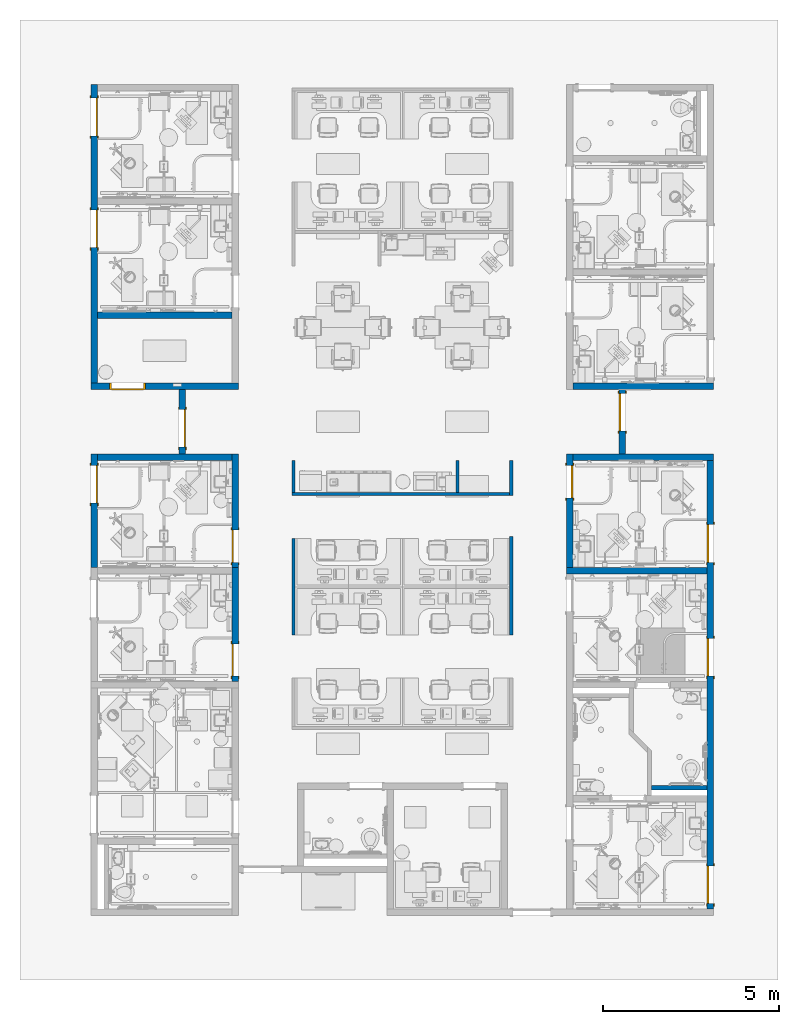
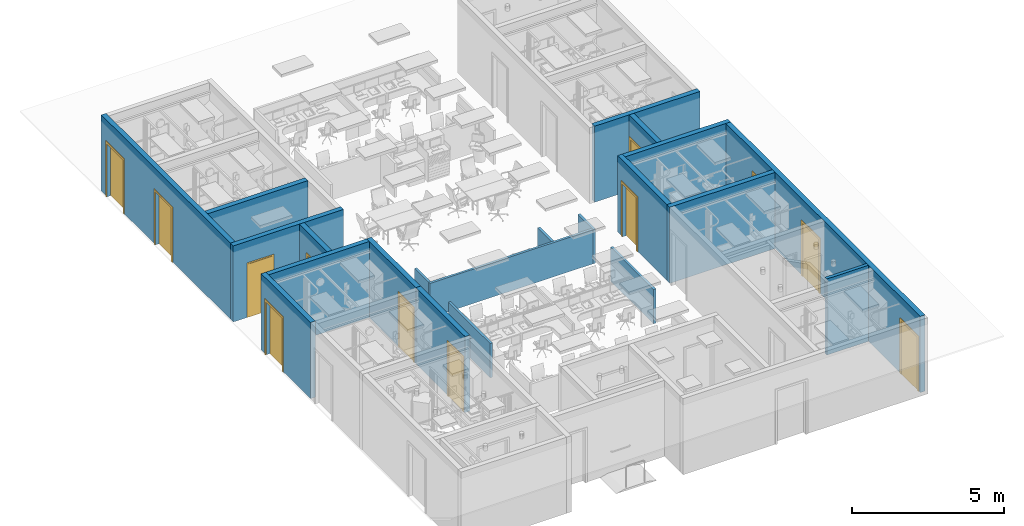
# One storey, part 2 of 142: 21 walls, 12 doors, 12 openings.
"""IFC2X3 building model written with IfcOpenShell, lengths in feet."""

import ifcopenshell
import ifcopenshell.guid

model = None  # the IFC model being written
_history = None  # IfcOwnerHistory: only IFC2X3 demands one
_inside = {}  # id of a spatial element -> (the spatial element, [elements in it])
_under = {}  # id of a project, library or spatial element -> (it, [spatial elements below it])
_declared = {}  # id of a project -> (the project, [libraries it declares])
_typed = {}  # id of a type object -> (the type object, [elements of that type])
_made_of = {}  # id of a material, layer set ... -> (it, [elements and type objects made of it])


def new_model(schema):
    """Start an empty IFC model of exactly this schema.

    Asked for "IFC4X3", IfcOpenShell would pick the latest addendum, in which some entities
    have other attributes; the version numbers below select the first issue.
    IFC2X3 requires an IfcOwnerHistory on every rooted entity: one is made here for all.
    """
    global model, _history
    if schema == "IFC4X3":
        model = ifcopenshell.file(schema_version=(4, 3, 0, 0))
    else:
        model = ifcopenshell.file(schema=schema)
    _inside.clear()
    _under.clear()
    _declared.clear()
    _typed.clear()
    _made_of.clear()
    _history = None
    if model.schema == "IFC2X3":
        org = make("IfcOrganization", Name="unknown")
        user = make(
            "IfcPersonAndOrganization",
            ThePerson=make("IfcPerson", FamilyName="unknown"),
            TheOrganization=org,
        )
        app = make(
            "IfcApplication",
            ApplicationDeveloper=org,
            Version="unknown",
            ApplicationFullName="unknown",
            ApplicationIdentifier="unknown",
        )
        _history = make(
            "IfcOwnerHistory",
            OwningUser=user,
            OwningApplication=app,
            ChangeAction="ADDED",
            CreationDate=0,
        )
    return model


def make(cls, **values):
    """One entity of the class cls with the attributes given. An attribute that is None is left unset."""
    return model.create_entity(
        cls, **{name: value for name, value in values.items() if value is not None}
    )


def entity(cls, *values):
    """Any entity or typed value of the class cls, its attributes in the order of the schema. None: left unset."""
    e = model.create_entity(cls)
    for i, value in enumerate(values):
        if value is not None:
            e[i] = value
    return e


def rooted(cls, **values):
    """An entity with a GlobalId (a new one), such as an element, a storey or a relation."""
    return make(cls, GlobalId=ifcopenshell.guid.new(), OwnerHistory=_history, **values)


def si_unit(unit_type, name, prefix=None):
    """IfcSIUnit, for example si_unit("LENGTHUNIT", "METRE", prefix="MILLI")."""
    return make("IfcSIUnit", UnitType=unit_type, Prefix=prefix, Name=name)


def converted_unit(unit_type, name, factor, base, dimensions=None, offset=None):
    """IfcConversionBasedUnit, such as the inch: factor (a typed value) times the base unit."""
    return make(
        "IfcConversionBasedUnit"
        if offset is None
        else "IfcConversionBasedUnitWithOffset",
        ConversionOffset=offset,
        Dimensions=None
        if dimensions is None
        else entity("IfcDimensionalExponents", *dimensions),
        UnitType=unit_type,
        Name=name,
        ConversionFactor=make(
            "IfcMeasureWithUnit", ValueComponent=factor, UnitComponent=base
        ),
    )


def derived_unit(unit_type, elements):
    """IfcDerivedUnit: a product of units, each with its exponent."""
    return make(
        "IfcDerivedUnit",
        Elements=[
            make("IfcDerivedUnitElement", Unit=unit, Exponent=power)
            for unit, power in elements
        ],
        UnitType=unit_type,
    )


def assignment(units):
    """IfcUnitAssignment: the units of a project."""
    return None if units is None else make("IfcUnitAssignment", Units=units)


def point(xyz):
    """IfcCartesianPoint."""
    return None if xyz is None else make("IfcCartesianPoint", Coordinates=xyz)


def direction(xyz):
    """IfcDirection."""
    return None if xyz is None else make("IfcDirection", DirectionRatios=xyz)


def frame(location, z_axis=None, x_axis=None):
    """IfcAxis2Placement3D, a coordinate frame: its origin and axes. An axis left out is left unset."""
    return make(
        "IfcAxis2Placement3D",
        Location=point(location),
        Axis=direction(z_axis),
        RefDirection=direction(x_axis),
    )


def frame_2d(location, x_axis=None):
    """IfcAxis2Placement2D, a coordinate frame in the plane: its origin and x axis."""
    return make(
        "IfcAxis2Placement2D", Location=point(location), RefDirection=direction(x_axis)
    )


def origin():
    """The frame at (0, 0, 0) with its axes left unset."""
    return frame((0.0, 0.0, 0.0))


def origin_2d_with_axis():
    """The frame at (0, 0) in the plane with the x axis (1, 0) written out."""
    return frame_2d((0.0, 0.0), x_axis=(1.0, 0.0))


def place(relative_to, where):
    """IfcLocalPlacement: puts the frame where relative to a parent placement (None: the world)."""
    return make(
        "IfcLocalPlacement", PlacementRelTo=relative_to, RelativePlacement=where
    )


def context(
    kind, dimensions, precision=None, world=None, true_north=None, identifier=None
):
    """IfcGeometricRepresentationContext, for example the 3D "Model" context."""
    return make(
        "IfcGeometricRepresentationContext",
        ContextIdentifier=identifier,
        ContextType=kind,
        CoordinateSpaceDimension=dimensions,
        Precision=precision,
        WorldCoordinateSystem=world,
        TrueNorth=true_north,
    )


def subcontext(parent, identifier, kind, view, scale=None):
    """IfcGeometricRepresentationSubContext, for example "Body" below "Model"."""
    return make(
        "IfcGeometricRepresentationSubContext",
        ContextIdentifier=identifier,
        ContextType=kind,
        ParentContext=parent,
        TargetScale=scale,
        TargetView=view,
    )


def project(units=None, contexts=None):
    """IfcProject with its units and contexts."""
    return rooted(
        "IfcProject",
        Name="project",
        RepresentationContexts=contexts,
        UnitsInContext=assignment(units),
    )


def spatial(cls, under=None, at=None, **own):
    """A site, building, storey or space (cls), placed at a placement, below another one or the project."""
    s = rooted(cls, ObjectPlacement=at, **own)
    if under is not None:
        _under.setdefault(under.id(), (under, []))[1].append(s)
    return s


def polyline(points):
    """IfcPolyline through the points."""
    return make("IfcPolyline", Points=[point(p) for p in points])


def profile(cls, at=None, kind="AREA", **sizes):
    """A parametric profile (cls). Its sizes go by their IFC names, for example OverallWidth=200.0."""
    return make(cls, ProfileType=kind, Position=at, **sizes)


def rectangle(**sizes):
    """IfcRectangleProfileDef."""
    return profile("IfcRectangleProfileDef", **sizes)


def outline(outer, holes=None, kind="AREA"):
    """IfcArbitraryClosedProfileDef: a profile drawn as a closed curve; with holes, ...WithVoids."""
    if holes is None:
        return make("IfcArbitraryClosedProfileDef", ProfileType=kind, OuterCurve=outer)
    return make(
        "IfcArbitraryProfileDefWithVoids",
        ProfileType=kind,
        OuterCurve=outer,
        InnerCurves=holes,
    )


def extrude(swept, where, along, depth):
    """IfcExtrudedAreaSolid: the profile swept, set in the frame where, extruded along a direction by depth."""
    return make(
        "IfcExtrudedAreaSolid",
        SweptArea=swept,
        Position=where,
        ExtrudedDirection=direction(along),
        Depth=depth,
    )


def shape(context_of_items, identifier, shape_type, items):
    """IfcShapeRepresentation: the items that make up one representation, for example the "Body"."""
    return make(
        "IfcShapeRepresentation",
        ContextOfItems=context_of_items,
        RepresentationIdentifier=identifier,
        RepresentationType=shape_type,
        Items=items,
    )


def source(mapping_origin, context_of_items, identifier, shape_type, items):
    """IfcRepresentationMap: a shape defined once, which mapped items show again and again."""
    return make(
        "IfcRepresentationMap",
        MappingOrigin=mapping_origin,
        MappedRepresentation=shape(context_of_items, identifier, shape_type, items),
    )


def transform(
    local_origin,
    x_axis=None,
    y_axis=None,
    z_axis=None,
    scale=None,
    scale2=None,
    scale3=None,
    uniform=True,
):
    """IfcCartesianTransformationOperator3D, or its non-uniform kind. x_axis, y_axis, z_axis: its Axis1, 2, 3."""
    if uniform:
        return make(
            "IfcCartesianTransformationOperator3D",
            Axis1=direction(x_axis),
            Axis2=direction(y_axis),
            LocalOrigin=point(local_origin),
            Scale=scale,
            Axis3=direction(z_axis),
        )
    return make(
        "IfcCartesianTransformationOperator3DnonUniform",
        Axis1=direction(x_axis),
        Axis2=direction(y_axis),
        LocalOrigin=point(local_origin),
        Scale=scale,
        Axis3=direction(z_axis),
        Scale2=scale2,
        Scale3=scale3,
    )


def mapped(mapping_source, mapping_target):
    """IfcMappedItem: shows the shape of a source again, moved by a transform."""
    return make(
        "IfcMappedItem", MappingSource=mapping_source, MappingTarget=mapping_target
    )


def material(Name=None, Category=None):
    """IfcMaterial."""
    return make("IfcMaterial", Name=Name, Category=Category)


def layer(
    of_material, thickness, ventilated=None, Name=None, Category=None, Priority=None
):
    """IfcMaterialLayer: one layer of a wall or slab, of a material (None: an air gap)."""
    return make(
        "IfcMaterialLayer",
        Material=of_material,
        LayerThickness=thickness,
        IsVentilated=ventilated,
        Name=Name,
        Category=Category,
        Priority=Priority,
    )


def layer_set(layers, Name=None):
    """IfcMaterialLayerSet."""
    return make("IfcMaterialLayerSet", MaterialLayers=layers, LayerSetName=Name)


def layer_usage(for_layer_set, set_direction, sense, offset, extent=None):
    """IfcMaterialLayerSetUsage: how a layer set lies in its element."""
    return make(
        "IfcMaterialLayerSetUsage",
        ForLayerSet=for_layer_set,
        LayerSetDirection=set_direction,
        DirectionSense=sense,
        OffsetFromReferenceLine=offset,
        ReferenceExtent=extent,
    )


def made_of(thing, what):
    """Note that an element or type object is made of a material, layer set ...; save() writes the relation."""
    if what is not None:
        _made_of.setdefault(what.id(), (what, []))[1].append(thing)
    return thing


def type_object(cls, material=None, **own):
    """A type object (cls), such as IfcWallType, which elements share."""
    return made_of(rooted(cls, **own), material)


def type_shapes(of_type, sources):
    """Give a type object the sources (RepresentationMaps) that its elements show as mapped items."""
    of_type.RepresentationMaps = sources


def element(
    cls,
    number,
    at=None,
    inside=None,
    cuts=None,
    type_object=None,
    material=None,
    context=None,
    identifier="Body",
    shape_type=None,
    held_by="IfcProductDefinitionShape",
    body=None,
    shapes=None,
    **own,
):
    """One element of the class cls, such as IfcWall. Its Tag is "e" and its number.

    at: its placement. inside: the storey or other place that contains it. cuts: it is an
    opening in that element (IfcRelVoidsElement). A single representation is given by context,
    identifier, shape_type and body (its items); several are given by shapes. held_by: the class
    of the entity that holds the representations. save() writes the other relations.
    """
    e = rooted(cls, Tag="e%d" % number, ObjectPlacement=at, **own)
    if body is not None:
        shapes = [shape(context, identifier, shape_type, body)]
    if shapes is not None:
        e.Representation = make(held_by, Representations=shapes)
    if inside is not None:
        _inside.setdefault(inside.id(), (inside, []))[1].append(e)
    if cuts is not None:
        rooted(
            "IfcRelVoidsElement", RelatingBuildingElement=cuts, RelatedOpeningElement=e
        )
    if type_object is not None:
        _typed.setdefault(type_object.id(), (type_object, []))[1].append(e)
    return made_of(e, material)


def fill(opening, filler):
    """IfcRelFillsElement: the door or window that sits in an opening."""
    return rooted(
        "IfcRelFillsElement",
        RelatingOpeningElement=opening,
        RelatedBuildingElement=filler,
    )


def aggregate(whole, parts):
    """IfcRelAggregates: a whole, such as a stair, and the parts it consists of."""
    return rooted("IfcRelAggregates", RelatingObject=whole, RelatedObjects=parts)


def save(model, path):
    """Write the relations noted so far, then the file.

    IfcRelAggregates (storeys below a building ...), IfcRelContainedInSpatialStructure (elements
    in a storey), IfcRelDefinesByType, IfcRelAssociatesMaterial and IfcRelDeclares: one each for
    every whole, place, type object, material and project.
    """
    for whole, parts in _under.values():
        aggregate(whole, parts)
    for where, things in _inside.values():
        rooted(
            "IfcRelContainedInSpatialStructure",
            RelatedElements=things,
            RelatingStructure=where,
        )
    for kind, things in _typed.values():
        rooted("IfcRelDefinesByType", RelatedObjects=things, RelatingType=kind)
    for what, things in _made_of.values():
        rooted("IfcRelAssociatesMaterial", RelatedObjects=things, RelatingMaterial=what)
    for by, libraries in _declared.values():
        rooted("IfcRelDeclares", RelatingContext=by, RelatedDefinitions=libraries)
    model.write(path)


model = new_model("IFC2X3")

# Units and contexts
model_context = context("Model", 3, precision=0.0001, world=origin(), true_north=direction((6.12303176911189e-17, 1.0)))
body_context = subcontext(model_context, "Body", "Model", "MODEL_VIEW")
ifc_project = project(units=[converted_unit("LENGTHUNIT", "FOOT", entity("IfcRatioMeasure", 0.3048), si_unit("LENGTHUNIT", "METRE"), dimensions=[1, 0, 0, 0, 0, 0, 0]), converted_unit("AREAUNIT", "SQUARE FOOT", entity("IfcRatioMeasure", 0.09290304), si_unit("AREAUNIT", "SQUARE_METRE"), dimensions=[2, 0, 0, 0, 0, 0, 0]), converted_unit("VOLUMEUNIT", "CUBIC FOOT", entity("IfcRatioMeasure", 0.028316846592), si_unit("VOLUMEUNIT", "CUBIC_METRE"), dimensions=[3, 0, 0, 0, 0, 0, 0]), converted_unit("PLANEANGLEUNIT", "DEGREE", entity("IfcRatioMeasure", 0.0174532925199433), si_unit("PLANEANGLEUNIT", "RADIAN"), dimensions=[0, 0, 0, 0, 0, 0, 0]), si_unit("MASSUNIT", "GRAM", prefix="KILO"), derived_unit("MASSDENSITYUNIT", [(si_unit("MASSUNIT", "GRAM", prefix="KILO"), 1), (si_unit("LENGTHUNIT", "METRE"), -3)]), si_unit("TIMEUNIT", "SECOND"), si_unit("FREQUENCYUNIT", "HERTZ"), si_unit("THERMODYNAMICTEMPERATUREUNIT", "DEGREE_CELSIUS"), derived_unit("THERMALTRANSMITTANCEUNIT", [(si_unit("MASSUNIT", "GRAM", prefix="KILO"), 1), (si_unit("THERMODYNAMICTEMPERATUREUNIT", "KELVIN"), -1), (si_unit("TIMEUNIT", "SECOND"), -3)]), derived_unit("VOLUMETRICFLOWRATEUNIT", [(si_unit("LENGTHUNIT", "METRE"), 3), (si_unit("TIMEUNIT", "SECOND"), -1)]), si_unit("ELECTRICCURRENTUNIT", "AMPERE"), si_unit("ELECTRICVOLTAGEUNIT", "VOLT"), si_unit("POWERUNIT", "WATT"), si_unit("FORCEUNIT", "NEWTON"), si_unit("ILLUMINANCEUNIT", "LUX"), si_unit("LUMINOUSFLUXUNIT", "LUMEN"), si_unit("LUMINOUSINTENSITYUNIT", "CANDELA"), derived_unit("USERDEFINED", [(si_unit("MASSUNIT", "GRAM", prefix="KILO"), -1), (si_unit("LENGTHUNIT", "METRE"), -2), (si_unit("TIMEUNIT", "SECOND"), 3), (si_unit("LUMINOUSFLUXUNIT", "LUMEN"), 1)]), derived_unit("LINEARVELOCITYUNIT", [(si_unit("LENGTHUNIT", "METRE"), 1), (si_unit("TIMEUNIT", "SECOND"), -1)]), si_unit("PRESSUREUNIT", "PASCAL"), derived_unit("USERDEFINED", [(si_unit("LENGTHUNIT", "METRE"), -2), (si_unit("MASSUNIT", "GRAM", prefix="KILO"), 1), (si_unit("TIMEUNIT", "SECOND"), -2)])], contexts=[model_context])

# Site, building, storey
site_placement = place(None, origin())
site = spatial("IfcSite", under=ifc_project, at=site_placement, Name="Default", CompositionType="ELEMENT")
building_placement = place(site_placement, origin())
building = spatial("IfcBuilding", under=site, at=building_placement, Name="OUTPATIENT / PACT CLINIC (Ch. 265)", CompositionType="ELEMENT")
storey_placement = place(building_placement, origin())
storey = spatial("IfcBuildingStorey", under=building, at=storey_placement, Name="LEVEL 1", CompositionType="ELEMENT", Elevation=0.0)

# Wall, opening, door
ifc_material = material(Name="<Unnamed>")
ifc_layer_1 = layer(ifc_material, 0.604166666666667)
ifc_layer_set_1 = layer_set([ifc_layer_1], Name="Basic Wall:Interior - 7 1/4\"")
ifc_layer_usage_1 = layer_usage(ifc_layer_set_1, "AXIS2", "NEGATIVE", 0.302083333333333)
wall_type_1 = type_object("IfcWallType", Name="Basic Wall:Interior - 7 1/4\"", PredefinedType="STANDARD", material=ifc_layer_set_1)
wall_1_placement = place(storey_placement, frame((398.864351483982, -904.233018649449, 0.0), z_axis=(0.0, 0.0, 1.0), x_axis=(0.0, -1.0, 0.0)))
wall_1 = element("IfcWallStandardCase", 1, at=wall_1_placement, inside=storey, type_object=wall_type_1, material=ifc_layer_usage_1, Name="Basic Wall:Interior - 7 1/4\"", ObjectType="Basic Wall:Interior - 7 1/4\"", context=body_context, shape_type="SweptSolid", body=[
    extrude(rectangle(XDim=5.99999999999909, YDim=0.604166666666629, at=frame_2d((2.99999999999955, 0.0), x_axis=(-1.0, 0.0))), origin(), (0.0, 0.0, 1.0), 9.99999999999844),
])
opening_1_placement = place(wall_1_placement, frame((1.88541666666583, -0.302083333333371, 0.0)))
opening_1 = element("IfcOpeningElement", 2, at=opening_1_placement, cuts=wall_1, Name="DOOR-Design-SGL:42\" x 84\":1", ObjectType="Opening", context=body_context, shape_type="SweptSolid", body=[
    extrude(rectangle(XDim=3.5, YDim=7.0, at=frame_2d((3.5, 1.75), x_axis=(0.0, 1.0))), frame((0.0, 0.0, 0.0), z_axis=(0.0, 1.0, 0.0), x_axis=(0.0, 0.0, 1.0)), (0.0, 0.0, 1.0), 0.604166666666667),
])
door_style_1 = type_object("IfcDoorStyle", Name="42\" x 84\"", ConstructionType="NOTDEFINED", OperationType="SINGLE_SWING_RIGHT", ParameterTakesPrecedence=False, Sizeable=False)
shared_shape_1 = source(origin(), body_context, "Body", "SweptSolid", [
    extrude(outline(polyline([(-2.0, -3.6875), (2.0, -3.6875), (2.0, 3.5625), (1.75, 3.5625), (1.75, -3.43750000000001), (-1.75, -3.43750000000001), (-1.75, 3.5625), (-2.0, 3.5625), (-2.0, -3.6875)])), frame((1.75, 0.604166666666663, 3.5625), z_axis=(0.0, 1.0, 0.0), x_axis=(1.0, 0.0, 0.0)), (0.0, 0.0, 1.0), 0.0833333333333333),
    extrude(outline(polyline([(-3.6875, -2.0), (3.5625, -2.0), (3.5625, -1.75000000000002), (-3.4375, -1.75000000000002), (-3.4375, 1.75000000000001), (3.5625, 1.75000000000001), (3.5625, 2.0), (-3.6875, 2.0), (-3.6875, -2.0)])), frame((1.75000000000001, -0.0833333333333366, 3.5625), z_axis=(0.0, 1.0, 0.0), x_axis=(0.0, 0.0, -1.0)), (0.0, 0.0, 1.0), 0.0833333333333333),
    extrude(rectangle(XDim=0.166666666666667, YDim=3.5, at=frame_2d((1.38777878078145e-17, 0.0), x_axis=(1.0, 0.0))), frame((1.75, 0.52083333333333, 0.0), z_axis=(0.0, 0.0, 1.0), x_axis=(0.0, 1.0, 0.0)), (0.0, 0.0, 1.0), 7.0),
])
type_shapes(door_style_1, [shared_shape_1])
door_1_placement = place(opening_1_placement, origin())
door_1 = element("IfcDoor", 3, at=door_1_placement, inside=storey, type_object=door_style_1, Name="DOOR-Design-SGL:42\" x 84\"", ObjectType="42\" x 84\"", OverallHeight=7.0, OverallWidth=3.5, context=body_context, shape_type="MappedRepresentation", body=[
    mapped(shared_shape_1, transform((0.0, 0.0, 0.0), scale=1.0)),
])
fill(opening_1, door_1)

ifc_layer_usage_2 = layer_usage(ifc_layer_set_1, "AXIS2", "NEGATIVE", 0.302083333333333)
wall_2_placement = place(storey_placement, frame((403.765393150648, -920.837185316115, 0.0), z_axis=(0.0, 0.0, 1.0), x_axis=(0.0, -1.0, 0.0)))
wall_2 = element("IfcWallStandardCase", 4, at=wall_2_placement, inside=storey, type_object=wall_type_1, material=ifc_layer_usage_2, Name="Basic Wall:Interior - 7 1/4\"", ObjectType="Basic Wall:Interior - 7 1/4\"", context=body_context, shape_type="SweptSolid", body=[
    extrude(rectangle(XDim=10.6041666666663, YDim=0.604166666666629, at=frame_2d((5.30208333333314, -1.95399252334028e-14), x_axis=(-1.0, 0.0))), origin(), (0.0, 0.0, 1.0), 9.99999999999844),
])
opening_2_placement = place(wall_2_placement, frame((10.1041666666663, 0.302083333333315, 0.0)))
opening_2 = element("IfcOpeningElement", 5, at=opening_2_placement, cuts=wall_2, Name="DOOR-Design-SGL:36\" x 84\":1", ObjectType="Opening", context=body_context, shape_type="SweptSolid", body=[
    extrude(rectangle(XDim=3.0, YDim=7.0, at=frame_2d((3.5, 1.5), x_axis=(0.0, -1.0))), frame((0.0, 0.0, 0.0), z_axis=(0.0, -1.0, 0.0), x_axis=(0.0, 0.0, 1.0)), (0.0, 0.0, 1.0), 0.604166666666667),
])
door_style_2 = type_object("IfcDoorStyle", Name="36\" x 84\"", ConstructionType="NOTDEFINED", OperationType="SINGLE_SWING_LEFT", ParameterTakesPrecedence=False, Sizeable=False)
shared_shape_2 = source(origin(), body_context, "Body", "SweptSolid", [
    extrude(outline(polyline([(-1.75, -3.6875), (1.75, -3.6875), (1.75, 3.5625), (1.5, 3.5625), (1.5, -3.43750000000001), (-1.5, -3.43750000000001), (-1.5, 3.5625), (-1.75, 3.5625), (-1.75, -3.6875)])), frame((1.5, 0.687499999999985, 3.5625), z_axis=(0.0, -1.0, 0.0), x_axis=(-1.0, 0.0, 0.0)), (0.0, 0.0, 1.0), 0.0833333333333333),
    extrude(outline(polyline([(-3.6875, -1.74999999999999), (3.5625, -1.74999999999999), (3.5625, -1.50000000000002), (-3.4375, -1.50000000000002), (-3.4375, 1.50000000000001), (3.5625, 1.50000000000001), (3.5625, 1.75000000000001), (-3.6875, 1.75000000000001), (-3.6875, -1.74999999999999)])), frame((1.49999999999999, 0.0, 3.5625), z_axis=(0.0, -1.0, 0.0), x_axis=(0.0, 0.0, -1.0)), (0.0, 0.0, 1.0), 0.0833333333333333),
    extrude(rectangle(XDim=3.0, YDim=0.166666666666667, at=frame_2d((0.0, -1.38777878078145e-17), x_axis=(1.0, 0.0))), frame((1.5, 0.520833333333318, 0.0)), (0.0, 0.0, 1.0), 7.0),
])
type_shapes(door_style_2, [shared_shape_2])
door_2_placement = place(opening_2_placement, frame((0.0, 0.0, 0.0), z_axis=(0.0, 0.0, 1.0), x_axis=(-1.0, 0.0, 0.0)))
door_2 = element("IfcDoor", 6, at=door_2_placement, inside=storey, type_object=door_style_2, Name="DOOR-Design-SGL:36\" x 84\"", ObjectType="36\" x 84\"", OverallHeight=7.0, OverallWidth=3.0, context=body_context, shape_type="MappedRepresentation", body=[
    mapped(shared_shape_2, transform((0.0, 0.0, 0.0), scale=1.0)),
])
fill(opening_2, door_2)

ifc_layer_usage_3 = layer_usage(ifc_layer_set_1, "AXIS2", "NEGATIVE", 0.302083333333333)
wall_3_placement = place(storey_placement, frame((390.66136654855, -910.233018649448, 0.0), z_axis=(0.0, 0.0, 1.0), x_axis=(0.0, -1.0, 0.0)))
wall_3 = element("IfcWallStandardCase", 7, at=wall_3_placement, inside=storey, type_object=wall_type_1, material=ifc_layer_usage_3, Name="Basic Wall:Interior - 7 1/4\"", ObjectType="Basic Wall:Interior - 7 1/4\"", context=body_context, shape_type="SweptSolid", body=[
    extrude(rectangle(XDim=10.6041666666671, YDim=0.604166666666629, at=frame_2d((5.30208333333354, -1.9595436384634e-14), x_axis=(-1.0, 0.0))), origin(), (0.0, 0.0, 1.0), 9.99999999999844),
])
opening_3_placement = place(wall_3_placement, frame((1.10416666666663, -0.302083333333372, 0.0)))
opening_3 = element("IfcOpeningElement", 8, at=opening_3_placement, cuts=wall_3, Name="DOOR-Design-SGL:42\" x 84\":1", ObjectType="Opening", context=body_context, shape_type="SweptSolid", body=[
    extrude(rectangle(XDim=3.5, YDim=7.0, at=frame_2d((3.5, 1.75), x_axis=(0.0, -1.0))), frame((0.0, 0.0, 0.0), z_axis=(0.0, 1.0, 0.0), x_axis=(0.0, 0.0, 1.0)), (0.0, 0.0, 1.0), 0.604166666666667),
])
door_style_3 = type_object("IfcDoorStyle", Name="42\" x 84\"", ConstructionType="NOTDEFINED", OperationType="SINGLE_SWING_LEFT", ParameterTakesPrecedence=False, Sizeable=False)
shared_shape_3 = source(origin(), body_context, "Body", "SweptSolid", [
    extrude(outline(polyline([(-2.0, -3.6875), (2.0, -3.6875), (2.0, 3.5625), (1.75, 3.5625), (1.75, -3.43750000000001), (-1.75, -3.43750000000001), (-1.75, 3.5625), (-2.0, 3.5625), (-2.0, -3.6875)])), frame((1.75, 0.687499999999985, 3.5625), z_axis=(0.0, -1.0, 0.0), x_axis=(-1.0, 0.0, 0.0)), (0.0, 0.0, 1.0), 0.0833333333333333),
    extrude(outline(polyline([(-3.6875, -2.0), (3.5625, -2.0), (3.5625, -1.75000000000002), (-3.4375, -1.75000000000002), (-3.4375, 1.75000000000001), (3.5625, 1.75000000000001), (3.5625, 2.0), (-3.6875, 2.0), (-3.6875, -2.0)])), frame((1.74999999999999, 0.0, 3.5625), z_axis=(0.0, -1.0, 0.0), x_axis=(0.0, 0.0, -1.0)), (0.0, 0.0, 1.0), 0.0833333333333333),
    extrude(rectangle(XDim=3.5, YDim=0.166666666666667, at=frame_2d((0.0, -1.38777878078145e-17), x_axis=(1.0, 0.0))), frame((1.75, 0.520833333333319, 0.0)), (0.0, 0.0, 1.0), 7.0),
])
type_shapes(door_style_3, [shared_shape_3])
door_3_placement = place(opening_3_placement, origin())
door_3 = element("IfcDoor", 9, at=door_3_placement, inside=storey, type_object=door_style_3, Name="DOOR-Design-SGL:42\" x 84\"", ObjectType="42\" x 84\"", OverallHeight=7.0, OverallWidth=3.5, context=body_context, shape_type="MappedRepresentation", body=[
    mapped(shared_shape_3, transform((0.0, 0.0, 0.0), scale=1.0)),
])
fill(opening_3, door_3)

ifc_layer_usage_4 = layer_usage(ifc_layer_set_1, "AXIS2", "NEGATIVE", 0.302083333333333)
wall_4_placement = place(storey_placement, frame((403.765393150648, -910.233018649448, 0.0), z_axis=(0.0, 0.0, 1.0), x_axis=(0.0, -1.0, 0.0)))
wall_4 = element("IfcWallStandardCase", 10, at=wall_4_placement, inside=storey, type_object=wall_type_1, material=ifc_layer_usage_4, Name="Basic Wall:Interior - 7 1/4\"", ObjectType="Basic Wall:Interior - 7 1/4\"", context=body_context, shape_type="SweptSolid", body=[
    extrude(rectangle(XDim=10.6041666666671, YDim=0.604166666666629, at=frame_2d((5.30208333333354, -1.95399252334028e-14), x_axis=(-1.0, 0.0))), origin(), (0.0, 0.0, 1.0), 9.99999999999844),
])
opening_4_placement = place(wall_4_placement, frame((10.1041666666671, 0.302083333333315, 0.0)))
opening_4 = element("IfcOpeningElement", 11, at=opening_4_placement, cuts=wall_4, Name="DOOR-Design-SGL:36\" x 84\":1", ObjectType="Opening", context=body_context, shape_type="SweptSolid", body=[
    extrude(rectangle(XDim=3.0, YDim=7.0, at=frame_2d((3.5, 1.5), x_axis=(0.0, -1.0))), frame((0.0, 0.0, 0.0), z_axis=(0.0, -1.0, 0.0), x_axis=(0.0, 0.0, 1.0)), (0.0, 0.0, 1.0), 0.604166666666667),
])
door_4_placement = place(opening_4_placement, frame((0.0, 0.0, 0.0), z_axis=(0.0, 0.0, 1.0), x_axis=(-1.0, 0.0, 0.0)))
door_4 = element("IfcDoor", 12, at=door_4_placement, inside=storey, type_object=door_style_2, Name="DOOR-Design-SGL:36\" x 84\"", ObjectType="36\" x 84\"", OverallHeight=7.0, OverallWidth=3.0, context=body_context, shape_type="MappedRepresentation", body=[
    mapped(shared_shape_2, transform((0.0, 0.0, 0.0), scale=1.0)),
])
fill(opening_4, door_4)

# Wall
ifc_layer_usage_5 = layer_usage(ifc_layer_set_1, "AXIS2", "NEGATIVE", 0.302083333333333)
wall_5_placement = place(storey_placement, frame((390.963449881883, -910.535101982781, 0.0)))
element("IfcWallStandardCase", 13, at=wall_5_placement, inside=storey, type_object=wall_type_1, material=ifc_layer_usage_5, Name="Basic Wall:Interior - 7 1/4\"", ObjectType="Basic Wall:Interior - 7 1/4\"", context=body_context, shape_type="SweptSolid", body=[
    extrude(rectangle(XDim=12.4998599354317, YDim=0.604166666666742, at=frame_2d((6.24992996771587, 0.0), x_axis=(-1.0, 0.0))), origin(), (0.0, 0.0, 1.0), 9.99999999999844),
])

# Wall, openings, doors
ifc_layer_usage_6 = layer_usage(ifc_layer_set_1, "AXIS2", "NEGATIVE", 0.302083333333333)
wall_6_placement = place(storey_placement, frame((390.661366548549, -903.628851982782, 0.0), z_axis=(0.0, 0.0, 1.0), x_axis=(0.0, 1.0, 0.0)))
wall_6 = element("IfcWallStandardCase", 14, at=wall_6_placement, inside=storey, type_object=wall_type_1, material=ifc_layer_usage_6, Name="Basic Wall:Interior - 7 1/4\"", ObjectType="Basic Wall:Interior - 7 1/4\"", context=body_context, shape_type="SweptSolid", body=[
    extrude(rectangle(XDim=27.8124990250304, YDim=0.604166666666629, at=frame_2d((13.9062495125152, 0.0), x_axis=(-1.0, 0.0))), origin(), (0.0, 0.0, 1.0), 9.99999999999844),
])
opening_5_placement = place(wall_6_placement, frame((16.1041656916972, 0.302083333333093, 0.0)))
opening_5 = element("IfcOpeningElement", 15, at=opening_5_placement, cuts=wall_6, Name="DOOR-Design-SGL:42\" x 84\":1", ObjectType="Opening", context=body_context, shape_type="SweptSolid", body=[
    extrude(rectangle(XDim=3.5, YDim=7.0, at=frame_2d((3.5, 1.75), x_axis=(0.0, -1.0))), frame((0.0, 0.0, 0.0), z_axis=(0.0, -1.0, 0.0), x_axis=(0.0, 0.0, 1.0)), (0.0, 0.0, 1.0), 0.604166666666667),
])
opening_6_placement = place(wall_6_placement, frame((26.5247386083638, 0.302083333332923, 0.0)))
opening_6 = element("IfcOpeningElement", 16, at=opening_6_placement, cuts=wall_6, Name="DOOR-Design-SGL:42\" x 84\":1", ObjectType="Opening", context=body_context, shape_type="SweptSolid", body=[
    extrude(rectangle(XDim=3.5, YDim=7.0, at=frame_2d((3.5, 1.75), x_axis=(0.0, -1.0))), frame((0.0, 0.0, 0.0), z_axis=(0.0, -1.0, 0.0), x_axis=(0.0, 0.0, 1.0)), (0.0, 0.0, 1.0), 0.604166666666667),
])
door_5_placement = place(opening_5_placement, frame((0.0, 0.0, 0.0), z_axis=(0.0, 0.0, 1.0), x_axis=(-1.0, 0.0, 0.0)))
door_5 = element("IfcDoor", 17, at=door_5_placement, inside=storey, type_object=door_style_3, Name="DOOR-Design-SGL:42\" x 84\"", ObjectType="42\" x 84\"", OverallHeight=7.0, OverallWidth=3.5, context=body_context, shape_type="MappedRepresentation", body=[
    mapped(shared_shape_3, transform((0.0, 0.0, 0.0), scale=1.0)),
])
fill(opening_5, door_5)
door_6_placement = place(opening_6_placement, frame((0.0, 0.0, 0.0), z_axis=(0.0, 0.0, 1.0), x_axis=(-1.0, 0.0, 0.0)))
door_6 = element("IfcDoor", 18, at=door_6_placement, inside=storey, type_object=door_style_3, Name="DOOR-Design-SGL:42\" x 84\"", ObjectType="42\" x 84\"", OverallHeight=7.0, OverallWidth=3.5, context=body_context, shape_type="MappedRepresentation", body=[
    mapped(shared_shape_3, transform((0.0, 0.0, 0.0), scale=1.0)),
])
fill(opening_6, door_6)

# Wall
ifc_layer_usage_7 = layer_usage(ifc_layer_set_1, "AXIS2", "NEGATIVE", 0.302083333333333)
wall_7_placement = place(storey_placement, frame((403.463309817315, -897.326769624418, 0.0), z_axis=(0.0, 0.0, 1.0), x_axis=(-1.0, 0.0, 0.0)))
element("IfcWallStandardCase", 19, at=wall_7_placement, inside=storey, type_object=wall_type_1, material=ifc_layer_usage_7, Name="Basic Wall:Interior - 7 1/4\"", ObjectType="Basic Wall:Interior - 7 1/4\"", context=body_context, shape_type="SweptSolid", body=[
    extrude(rectangle(XDim=12.499859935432, YDim=0.604166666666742, at=frame_2d((6.24992996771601, 3.5527136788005e-15), x_axis=(-1.0, 0.0))), origin(), (0.0, 0.0, 1.0), 9.99999999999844),
])

# Wall, opening, door
ifc_layer_usage_8 = layer_usage(ifc_layer_set_1, "AXIS2", "NEGATIVE", 0.302083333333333)
wall_8_placement = place(storey_placement, frame((390.359283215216, -903.930935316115, 0.0)))
wall_8 = element("IfcWallStandardCase", 20, at=wall_8_placement, inside=storey, type_object=wall_type_1, material=ifc_layer_usage_8, Name="Basic Wall:Interior - 7 1/4\"", ObjectType="Basic Wall:Interior - 7 1/4\"", context=body_context, shape_type="SweptSolid", body=[
    extrude(rectangle(XDim=13.7081932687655, YDim=0.604166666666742, at=frame_2d((6.85409663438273, 0.0), x_axis=(-1.0, 0.0))), origin(), (0.0, 0.0, 1.0), 9.99999999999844),
])
opening_7_placement = place(wall_8_placement, frame((4.88541666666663, 0.302083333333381, 0.0)))
opening_7 = element("IfcOpeningElement", 21, at=opening_7_placement, cuts=wall_8, Name="Door - 180 Degree:36\" x 84\":1", ObjectType="Opening", context=body_context, shape_type="SweptSolid", body=[
    extrude(rectangle(XDim=6.99999999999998, YDim=2.99999999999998, at=frame_2d((3.49999999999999, 1.5), x_axis=(1.0, 0.0))), frame((0.0, 0.0, 0.0), z_axis=(0.0, -1.0, 0.0), x_axis=(0.0, 0.0, 1.0)), (0.0, 0.0, 1.0), 0.604166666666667),
])
door_style_4 = type_object("IfcDoorStyle", Name="36\" x 84\"", ConstructionType="NOTDEFINED", OperationType="NOTDEFINED", ParameterTakesPrecedence=False, Sizeable=False)
shared_shape_4 = source(origin(), body_context, "Body", "SweptSolid", [
    extrude(outline(polyline([(1.49999999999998, -3.54166666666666), (1.66666666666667, -3.54166666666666), (1.66666666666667, 3.625), (-1.66666666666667, 3.625), (-1.66666666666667, -3.54166666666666), (-1.49999999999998, -3.54166666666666), (-1.49999999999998, 3.45833333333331), (1.49999999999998, 3.45833333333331), (1.49999999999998, -3.54166666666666)])), frame((1.50000000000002, 0.437500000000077, 3.54166666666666), z_axis=(0.0, -1.0, 0.0), x_axis=(1.0, 0.0, 0.0)), (0.0, 0.0, 1.0), 0.604166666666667),
    extrude(rectangle(XDim=3.0, YDim=0.145833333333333, at=origin_2d_with_axis()), frame((1.50000000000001, 0.406250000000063, 0.0)), (0.0, 0.0, 1.0), 6.99999999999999),
])
type_shapes(door_style_4, [shared_shape_4])
door_7_placement = place(opening_7_placement, frame((0.0, -0.166666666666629, 0.0), z_axis=(0.0, 0.0, 1.0), x_axis=(-1.0, 0.0, 0.0)))
door_7 = element("IfcDoor", 22, at=door_7_placement, inside=storey, type_object=door_style_4, Name="Door - 180 Degree:36\" x 84\"", ObjectType="36\" x 84\"", OverallHeight=6.99999999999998, OverallWidth=3.0, context=body_context, shape_type="MappedRepresentation", body=[
    mapped(shared_shape_4, transform((0.0, 0.0, 0.0), scale=1.0)),
])
fill(opening_7, door_7)

ifc_layer_usage_9 = layer_usage(ifc_layer_set_1, "AXIS2", "POSITIVE", -0.302083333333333)
wall_9_placement = place(storey_placement, frame((439.853934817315, -904.233018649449, 0.0), z_axis=(0.0, 0.0, 1.0), x_axis=(0.0, -1.0, 0.0)))
wall_9 = element("IfcWallStandardCase", 23, at=wall_9_placement, inside=storey, type_object=wall_type_1, material=ifc_layer_usage_9, Name="Basic Wall:Interior - 7 1/4\"", ObjectType="Basic Wall:Interior - 7 1/4\"", context=body_context, shape_type="SweptSolid", body=[
    extrude(rectangle(XDim=5.99998995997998, YDim=0.604166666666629, at=frame_2d((2.99999497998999, 0.0), x_axis=(-1.0, 0.0))), origin(), (0.0, 0.0, 1.0), 9.99999999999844),
])
opening_8_placement = place(wall_9_placement, frame((3.87881584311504, 0.302083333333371, 0.0)))
opening_8 = element("IfcOpeningElement", 24, at=opening_8_placement, cuts=wall_9, Name="DOOR-Design-SGL:42\" x 84\":1", ObjectType="Opening", context=body_context, shape_type="SweptSolid", body=[
    extrude(rectangle(XDim=3.5, YDim=7.0, at=frame_2d((3.5, 1.75), x_axis=(0.0, 1.0))), frame((0.0, 0.0, 0.0), z_axis=(0.0, -1.0, 0.0), x_axis=(0.0, 0.0, 1.0)), (0.0, 0.0, 1.0), 0.604166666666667),
])
door_8_placement = place(opening_8_placement, frame((0.0, 0.0, 0.0), z_axis=(0.0, 0.0, 1.0), x_axis=(-1.0, 0.0, 0.0)))
door_8 = element("IfcDoor", 25, at=door_8_placement, inside=storey, type_object=door_style_1, Name="DOOR-Design-SGL:42\" x 84\"", ObjectType="42\" x 84\"", OverallHeight=7.0, OverallWidth=3.5, context=body_context, shape_type="MappedRepresentation", body=[
    mapped(shared_shape_1, transform((0.0, 0.0, 0.0), scale=1.0)),
])
fill(opening_8, door_8)

# Wall
ifc_layer_usage_10 = layer_usage(ifc_layer_set_1, "AXIS2", "NEGATIVE", 0.302083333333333)
wall_10_placement = place(storey_placement, frame((435.254976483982, -903.930935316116, 0.0)))
element("IfcWallStandardCase", 26, at=wall_10_placement, inside=storey, type_object=wall_type_1, material=ifc_layer_usage_10, Name="Basic Wall:Interior - 7 1/4\"", ObjectType="Basic Wall:Interior - 7 1/4\"", context=body_context, shape_type="SweptSolid", body=[
    extrude(rectangle(XDim=13.1041681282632, YDim=0.604166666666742, at=frame_2d((6.55208406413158, 2.11775041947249e-14), x_axis=(-1.0, 0.0))), origin(), (0.0, 0.0, 1.0), 9.99999999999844),
])

# Wall, opening, door
ifc_layer_usage_11 = layer_usage(ifc_layer_set_1, "AXIS2", "NEGATIVE", 0.302083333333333)
wall_11_placement = place(storey_placement, frame((434.952893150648, -910.233008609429, 0.0), z_axis=(0.0, 0.0, 1.0), x_axis=(0.0, -1.0, 0.0)))
wall_11 = element("IfcWallStandardCase", 27, at=wall_11_placement, inside=storey, type_object=wall_type_1, material=ifc_layer_usage_11, Name="Basic Wall:Interior - 7 1/4\"", ObjectType="Basic Wall:Interior - 7 1/4\"", context=body_context, shape_type="SweptSolid", body=[
    extrude(rectangle(XDim=10.6041666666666, YDim=0.604166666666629, at=frame_2d((5.30208333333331, -1.9595436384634e-14), x_axis=(-1.0, 0.0))), origin(), (0.0, 0.0, 1.0), 9.99999999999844),
])
opening_9_placement = place(wall_11_placement, frame((1.10416666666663, -0.302083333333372, 0.0)))
opening_9 = element("IfcOpeningElement", 28, at=opening_9_placement, cuts=wall_11, Name="DOOR-Design-SGL:36\" x 84\":1", ObjectType="Opening", context=body_context, shape_type="SweptSolid", body=[
    extrude(rectangle(XDim=3.0, YDim=7.0, at=frame_2d((3.5, 1.5), x_axis=(0.0, -1.0))), frame((0.0, 0.0, 0.0), z_axis=(0.0, 1.0, 0.0), x_axis=(0.0, 0.0, 1.0)), (0.0, 0.0, 1.0), 0.604166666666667),
])
door_9_placement = place(opening_9_placement, origin())
door_9 = element("IfcDoor", 29, at=door_9_placement, inside=storey, type_object=door_style_2, Name="DOOR-Design-SGL:36\" x 84\"", ObjectType="36\" x 84\"", OverallHeight=7.0, OverallWidth=3.0, context=body_context, shape_type="MappedRepresentation", body=[
    mapped(shared_shape_2, transform((0.0, 0.0, 0.0), scale=1.0)),
])
fill(opening_9, door_9)

# Walls
ifc_layer_usage_12 = layer_usage(ifc_layer_set_1, "AXIS2", "NEGATIVE", 0.302083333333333)
wall_12_placement = place(storey_placement, frame((435.254976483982, -910.535091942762, 0.0)))
element("IfcWallStandardCase", 30, at=wall_12_placement, inside=storey, type_object=wall_type_1, material=ifc_layer_usage_12, Name="Basic Wall:Interior - 7 1/4\"", ObjectType="Basic Wall:Interior - 7 1/4\"", context=body_context, shape_type="SweptSolid", body=[
    extrude(rectangle(XDim=13.1041681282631, YDim=0.604166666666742, at=frame_2d((6.55208406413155, 0.0), x_axis=(-1.0, 0.0))), origin(), (0.0, 0.0, 1.0), 9.99999999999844),
])
ifc_layer_usage_13 = layer_usage(ifc_layer_set_1, "AXIS2", "NEGATIVE", 0.302083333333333)
wall_13_placement = place(storey_placement, frame((447.754977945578, -921.139258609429, 0.0), z_axis=(0.0, 0.0, 1.0), x_axis=(-1.0, 0.0, 0.0)))
element("IfcWallStandardCase", 31, at=wall_13_placement, inside=storey, type_object=wall_type_1, material=ifc_layer_usage_13, Name="Basic Wall:Interior - 7 1/4\"", ObjectType="Basic Wall:Interior - 7 1/4\"", context=body_context, shape_type="SweptSolid", body=[
    extrude(rectangle(XDim=13.104169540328, YDim=0.604166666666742, at=frame_2d((6.55208477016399, 8.04911692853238e-16), x_axis=(-1.0, 0.0))), origin(), (0.0, 0.0, 1.0), 9.99999999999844),
])

# Wall, openings, doors
ifc_layer_usage_14 = layer_usage(ifc_layer_set_1, "AXIS2", "POSITIVE", -0.302083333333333)
wall_14_placement = place(storey_placement, frame((448.057061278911, -952.649655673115, 0.0), z_axis=(0.0, 0.0, 1.0), x_axis=(0.0, 1.0, 0.0)))
wall_14 = element("IfcWallStandardCase", 32, at=wall_14_placement, inside=storey, type_object=wall_type_1, material=ifc_layer_usage_14, Name="Basic Wall:Interior - 7 1/4\"", ObjectType="Basic Wall:Interior - 7 1/4\"", context=body_context, shape_type="SweptSolid", body=[
    extrude(rectangle(XDim=41.8124803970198, YDim=0.604166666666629, at=frame_2d((20.9062401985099, -8.88178419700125e-16), x_axis=(-1.0, 0.0))), origin(), (0.0, 0.0, 1.0), 9.99999999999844),
])
opening_10_placement = place(wall_14_placement, frame((32.3124803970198, -0.30208333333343, 0.0)))
opening_10 = element("IfcOpeningElement", 33, at=opening_10_placement, cuts=wall_14, Name="DOOR-Design-SGL:42\" x 84\":1", ObjectType="Opening", context=body_context, shape_type="SweptSolid", body=[
    extrude(rectangle(XDim=3.5, YDim=7.0, at=frame_2d((3.5, 1.75), x_axis=(0.0, -1.0))), frame((0.0, 0.0, 0.0), z_axis=(0.0, 1.0, 0.0), x_axis=(0.0, 0.0, 1.0)), (0.0, 0.0, 1.0), 0.604166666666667),
])
opening_11_placement = place(wall_14_placement, frame((21.7083137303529, -0.30208333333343, 0.0)))
opening_11 = element("IfcOpeningElement", 34, at=opening_11_placement, cuts=wall_14, Name="DOOR-Design-SGL:42\" x 84\":1", ObjectType="Opening", context=body_context, shape_type="SweptSolid", body=[
    extrude(rectangle(XDim=3.5, YDim=7.0, at=frame_2d((3.5, 1.75), x_axis=(0.0, -1.0))), frame((0.0, 0.0, 0.0), z_axis=(0.0, 1.0, 0.0), x_axis=(0.0, 0.0, 1.0)), (0.0, 0.0, 1.0), 0.604166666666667),
])
opening_12_placement = place(wall_14_placement, frame((0.499999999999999, -0.302083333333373, 0.0)))
opening_12 = element("IfcOpeningElement", 35, at=opening_12_placement, cuts=wall_14, Name="DOOR-Design-SGL:42\" x 84\":1", ObjectType="Opening", context=body_context, shape_type="SweptSolid", body=[
    extrude(rectangle(XDim=3.5, YDim=7.0, at=frame_2d((3.5, 1.75), x_axis=(0.0, -1.0))), frame((0.0, 0.0, 0.0), z_axis=(0.0, 1.0, 0.0), x_axis=(0.0, 0.0, 1.0)), (0.0, 0.0, 1.0), 0.604166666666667),
])
door_10_placement = place(opening_10_placement, origin())
door_10 = element("IfcDoor", 36, at=door_10_placement, inside=storey, type_object=door_style_3, Name="DOOR-Design-SGL:42\" x 84\"", ObjectType="42\" x 84\"", OverallHeight=7.0, OverallWidth=3.5, context=body_context, shape_type="MappedRepresentation", body=[
    mapped(shared_shape_3, transform((0.0, 0.0, 0.0), scale=1.0)),
])
fill(opening_10, door_10)
door_11_placement = place(opening_11_placement, origin())
door_11 = element("IfcDoor", 37, at=door_11_placement, inside=storey, type_object=door_style_3, Name="DOOR-Design-SGL:42\" x 84\"", ObjectType="42\" x 84\"", OverallHeight=7.0, OverallWidth=3.5, context=body_context, shape_type="MappedRepresentation", body=[
    mapped(shared_shape_3, transform((0.0, 0.0, 0.0), scale=1.0)),
])
fill(opening_11, door_11)
door_12_placement = place(opening_12_placement, origin())
door_12 = element("IfcDoor", 38, at=door_12_placement, inside=storey, type_object=door_style_3, Name="DOOR-Design-SGL:42\" x 84\"", ObjectType="42\" x 84\"", OverallHeight=7.0, OverallWidth=3.5, context=body_context, shape_type="MappedRepresentation", body=[
    mapped(shared_shape_3, transform((0.0, 0.0, 0.0), scale=1.0)),
])
fill(opening_12, door_12)

# Walls
ifc_layer_2 = layer(ifc_material, 0.291666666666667)
ifc_layer_set_2 = layer_set([ifc_layer_2], Name="Basic Wall:Systems Furniture Partition")
ifc_layer_usage_15 = layer_usage(ifc_layer_set_2, "AXIS2", "NEGATIVE", 0.145833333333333)
wall_type_2 = type_object("IfcWallType", Name="Basic Wall:Systems Furniture Partition", PredefinedType="STANDARD", material=ifc_layer_set_2)
wall_15_placement = place(storey_placement, frame((429.505116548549, -910.837185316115, 0.0), z_axis=(0.0, 0.0, 1.0), x_axis=(0.0, -1.0, 0.0)))
element("IfcWallStandardCase", 39, at=wall_15_placement, inside=storey, type_object=wall_type_2, material=ifc_layer_usage_15, Name="Basic Wall:Systems Furniture Partition", ObjectType="Basic Wall:Systems Furniture Partition", context=body_context, shape_type="SweptSolid", body=[
    extrude(rectangle(XDim=3.29166666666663, YDim=0.291666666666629, at=frame_2d((1.64583333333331, 0.0), x_axis=(-1.0, 0.0))), origin(), (0.0, 0.0, 1.0), 4.5),
])
ifc_layer_usage_16 = layer_usage(ifc_layer_set_2, "AXIS2", "POSITIVE", -0.145833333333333)
wall_16_placement = place(storey_placement, frame((429.359283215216, -913.983018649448, 0.0), z_axis=(0.0, 0.0, 1.0), x_axis=(-1.0, 0.0, 0.0)))
element("IfcWallStandardCase", 40, at=wall_16_placement, inside=storey, type_object=wall_type_2, material=ifc_layer_usage_16, Name="Basic Wall:Systems Furniture Partition", ObjectType="Basic Wall:Systems Furniture Partition", context=body_context, shape_type="SweptSolid", body=[
    extrude(rectangle(XDim=20.2916666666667, YDim=0.291666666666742, at=frame_2d((10.1458333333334, 0.0), x_axis=(-1.0, 0.0))), origin(), (0.0, 0.0, 1.0), 4.5),
])
ifc_layer_usage_17 = layer_usage(ifc_layer_set_2, "AXIS2", "POSITIVE", -0.145833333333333)
wall_17_placement = place(storey_placement, frame((409.213449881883, -910.837185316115, 0.0), z_axis=(0.0, 0.0, 1.0), x_axis=(0.0, -1.0, 0.0)))
element("IfcWallStandardCase", 41, at=wall_17_placement, inside=storey, type_object=wall_type_2, material=ifc_layer_usage_17, Name="Basic Wall:Systems Furniture Partition", ObjectType="Basic Wall:Systems Furniture Partition", context=body_context, shape_type="SweptSolid", body=[
    extrude(rectangle(XDim=3.0, YDim=0.291666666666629, at=frame_2d((1.5, 0.0), x_axis=(-1.0, 0.0))), origin(), (0.0, 0.0, 1.0), 4.5),
])
ifc_layer_usage_18 = layer_usage(ifc_layer_set_2, "AXIS2", "POSITIVE", -0.145833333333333)
wall_18_placement = place(storey_placement, frame((409.213449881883, -918.128851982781, 0.0), z_axis=(0.0, 0.0, 1.0), x_axis=(0.0, -1.0, 0.0)))
element("IfcWallStandardCase", 42, at=wall_18_placement, inside=storey, type_object=wall_type_2, material=ifc_layer_usage_18, Name="Basic Wall:Systems Furniture Partition", ObjectType="Basic Wall:Systems Furniture Partition", context=body_context, shape_type="SweptSolid", body=[
    extrude(rectangle(XDim=9.0, YDim=0.291666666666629, at=frame_2d((4.5, 0.0), x_axis=(-1.0, 0.0))), origin(), (0.0, 0.0, 1.0), 4.5),
])
ifc_layer_usage_19 = layer_usage(ifc_layer_set_2, "AXIS2", "NEGATIVE", 0.145833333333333)
wall_19_placement = place(storey_placement, frame((429.505116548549, -917.920518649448, 0.0), z_axis=(0.0, 0.0, 1.0), x_axis=(0.0, -1.0, 0.0)))
element("IfcWallStandardCase", 43, at=wall_19_placement, inside=storey, type_object=wall_type_2, material=ifc_layer_usage_19, Name="Basic Wall:Systems Furniture Partition", ObjectType="Basic Wall:Systems Furniture Partition", context=body_context, shape_type="SweptSolid", body=[
    extrude(rectangle(XDim=9.20833333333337, YDim=0.291666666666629, at=frame_2d((4.60416666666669, 0.0), x_axis=(-1.0, 0.0))), origin(), (0.0, 0.0, 1.0), 4.5),
])
ifc_layer_usage_20 = layer_usage(ifc_layer_set_2, "AXIS2", "NEGATIVE", 0.145833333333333)
wall_20_placement = place(storey_placement, frame((424.505116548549, -913.837185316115, 0.0), z_axis=(0.0, 0.0, 1.0), x_axis=(0.0, 1.0, 0.0)))
element("IfcWallStandardCase", 44, at=wall_20_placement, inside=storey, type_object=wall_type_2, material=ifc_layer_usage_20, Name="Basic Wall:Systems Furniture Partition", ObjectType="Basic Wall:Systems Furniture Partition", context=body_context, shape_type="SweptSolid", body=[
    extrude(rectangle(XDim=3.0, YDim=0.291666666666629, at=frame_2d((1.5, 0.0), x_axis=(-1.0, 0.0))), origin(), (0.0, 0.0, 1.0), 4.5),
])
ifc_layer_3 = layer(ifc_material, 0.40625)
ifc_layer_set_3 = layer_set([ifc_layer_3], Name="Basic Wall:Interior - 4 7/8\"")
ifc_layer_usage_21 = layer_usage(ifc_layer_set_3, "AXIS2", "POSITIVE", -0.203125)
wall_type_3 = type_object("IfcWallType", Name="Basic Wall:Interior - 4 7/8\"", PredefinedType="STANDARD", material=ifc_layer_set_3)
wall_21_placement = place(storey_placement, frame((447.754977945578, -941.342364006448, 0.0), z_axis=(0.0, 0.0, 1.0), x_axis=(-1.0, 0.0, 0.0)))
element("IfcWallStandardCase", 45, at=wall_21_placement, inside=storey, type_object=wall_type_3, material=ifc_layer_usage_21, Name="Basic Wall:Interior - 4 7/8\"", ObjectType="Basic Wall:Interior - 4 7/8\"", context=body_context, shape_type="SweptSolid", body=[
    extrude(rectangle(XDim=5.16949610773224, YDim=0.40625, at=frame_2d((2.58474805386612, -8.3544282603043e-15), x_axis=(-1.0, 0.0))), origin(), (0.0, 0.0, 1.0), 9.99999999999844),
])

save(model, "model.ifc")
